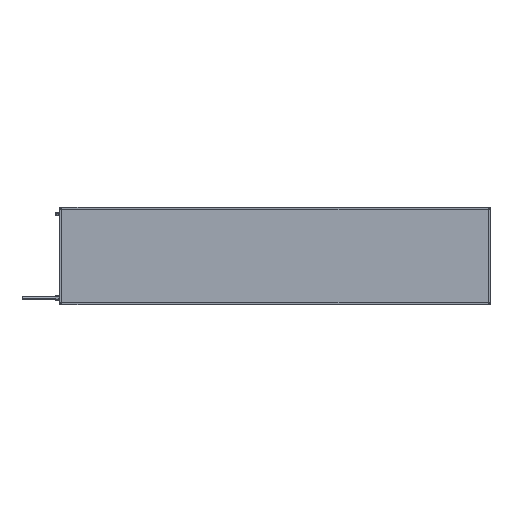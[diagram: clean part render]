
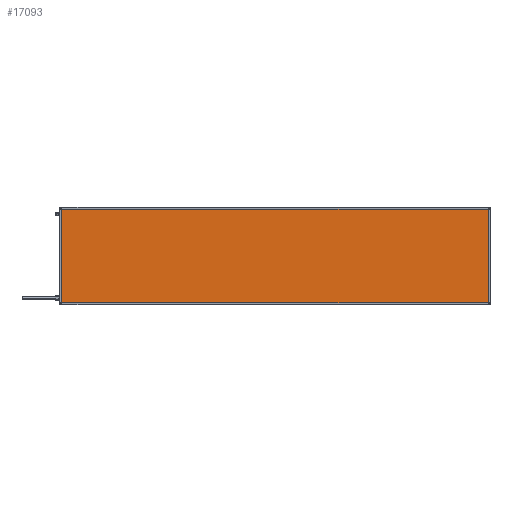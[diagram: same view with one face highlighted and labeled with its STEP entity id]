
A CAD part, top view. The second image highlights one B-rep face of the part: STEP entity #17093.
In plain terms, the highlighted planar face has unit normal (0, 0, 1).
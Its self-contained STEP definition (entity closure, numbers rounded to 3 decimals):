
#184 = ORIENTED_EDGE ( 'NONE', *, *, #15244, .T. ) ;
#797 = VERTEX_POINT ( 'NONE', #3258 ) ;
#988 = CARTESIAN_POINT ( 'NONE',  ( 4., 396., 41.85 ) ) ;
#1146 = CARTESIAN_POINT ( 'NONE',  ( 4., 0., 41.85 ) ) ;
#2548 = FACE_OUTER_BOUND ( 'NONE', #17706, .T. ) ;
#2932 = DIRECTION ( 'NONE',  ( 0., 1., 0. ) ) ;
#3233 = CARTESIAN_POINT ( 'NONE',  ( 1796., 4., 41.85 ) ) ;
#3258 = CARTESIAN_POINT ( 'NONE',  ( 1796., 396., 41.85 ) ) ;
#3735 = DIRECTION ( 'NONE',  ( -1., 0., 0. ) ) ;
#3829 = DIRECTION ( 'NONE',  ( 0., 0., -1. ) ) ;
#4107 = EDGE_CURVE ( 'NONE', #797, #9478, #10739, .T. ) ;
#4558 = VECTOR ( 'NONE', #16114, 1000. ) ;
#4602 = VECTOR ( 'NONE', #5713, 1000. ) ;
#4614 = VECTOR ( 'NONE', #9542, 1000. ) ;
#5374 = VERTEX_POINT ( 'NONE', #15362 ) ;
#5713 = DIRECTION ( 'NONE',  ( 1., 0., 0. ) ) ;
#5767 = LINE ( 'NONE', #15431, #15774 ) ;
#6125 = ORIENTED_EDGE ( 'NONE', *, *, #4107, .T. ) ;
#6796 = AXIS2_PLACEMENT_3D ( 'NONE', #12309, #3829, #3735 ) ;
#8248 = EDGE_CURVE ( 'NONE', #5374, #16125, #15554, .T. ) ;
#8380 = EDGE_CURVE ( 'NONE', #9478, #5374, #9451, .T. ) ;
#8466 = ORIENTED_EDGE ( 'NONE', *, *, #8248, .T. ) ;
#9451 = LINE ( 'NONE', #1146, #4614 ) ;
#9478 = VERTEX_POINT ( 'NONE', #988 ) ;
#9542 = DIRECTION ( 'NONE',  ( 0., -1., 0. ) ) ;
#10551 = CARTESIAN_POINT ( 'NONE',  ( 0., 396., 41.85 ) ) ;
#10739 = LINE ( 'NONE', #10551, #4558 ) ;
#12309 = CARTESIAN_POINT ( 'NONE',  ( 0., 0., 41.85 ) ) ;
#15244 = EDGE_CURVE ( 'NONE', #16125, #797, #5767, .T. ) ;
#15362 = CARTESIAN_POINT ( 'NONE',  ( 4., 4., 41.85 ) ) ;
#15386 = CARTESIAN_POINT ( 'NONE',  ( 0., 4., 41.85 ) ) ;
#15431 = CARTESIAN_POINT ( 'NONE',  ( 1796., 0., 41.85 ) ) ;
#15554 = LINE ( 'NONE', #15386, #4602 ) ;
#15774 = VECTOR ( 'NONE', #2932, 1000. ) ;
#16114 = DIRECTION ( 'NONE',  ( -1., 0., 0. ) ) ;
#16125 = VERTEX_POINT ( 'NONE', #3233 ) ;
#16228 = PLANE ( 'NONE',  #6796 ) ;
#17093 = ADVANCED_FACE ( 'NONE', ( #2548 ), #16228, .F. ) ;
#17663 = ORIENTED_EDGE ( 'NONE', *, *, #8380, .T. ) ;
#17706 = EDGE_LOOP ( 'NONE', ( #184, #6125, #17663, #8466 ) ) ;
